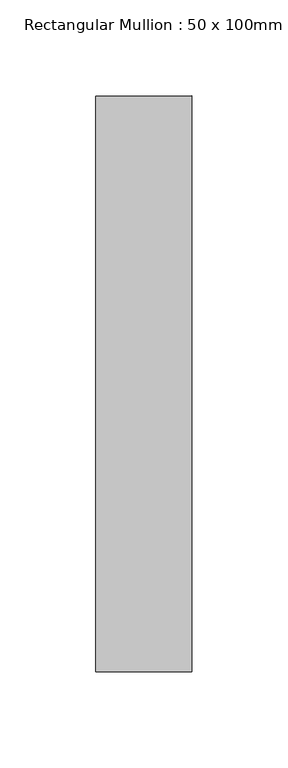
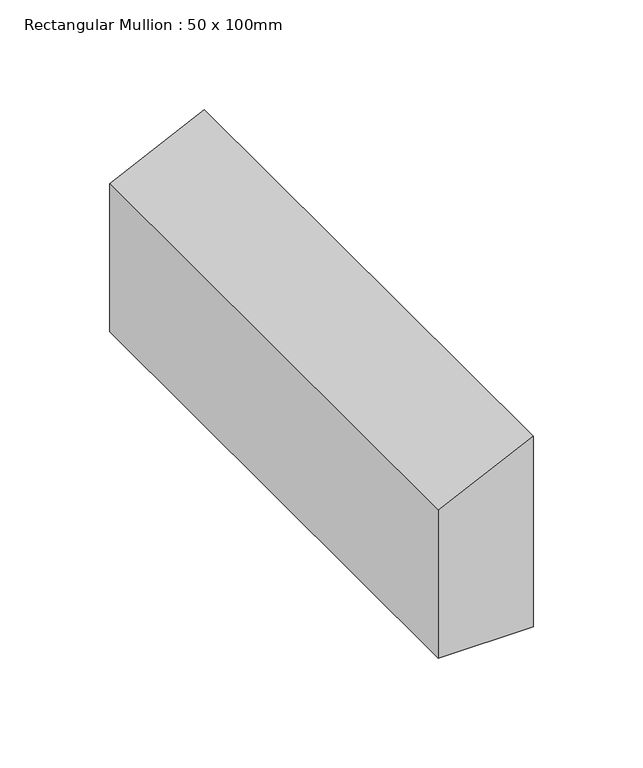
"""IFC4 building model written with IfcOpenShell, lengths in millimetres: member geometry, Rectangular Mullion : 50 x 100mm."""

from ifc_helpers import new_model, si_unit, frame, origin, place, context, project, spatial, polyline, outline, extrude, source, transform, mapped, element, save


def rectangular_mullion_50_x_100mm_b93bf2d0(model_context):
    return source(origin(), model_context, "Body", "SweptSolid", [
        extrude(outline(polyline([(0.0, 0.0), (-23.6761752, -50.0), (-106.3069709, -50.0), (-106.3069709, 0.0), (0.0, 0.0)])), frame((0.0, -125.0, 0.0), z_axis=(0.0, 1.0, 0.0), x_axis=(0.0, 0.0, 1.0)), (0.0, 0.0, 1.0), 300.0),
    ])


if __name__ == "__main__":
    model = new_model("IFC4")
    model_context = context("Model", 3, world=origin())
    ifc_project = project(units=[si_unit("LENGTHUNIT", "METRE", prefix="MILLI")], contexts=[model_context])
    site = spatial("IfcSite", under=ifc_project)
    building = spatial("IfcBuilding", under=site)
    placement = place(None, origin())
    rectangular_mullion_50_x_100mm_shape = rectangular_mullion_50_x_100mm_b93bf2d0(model_context)
    element("IfcMember", 1, ObjectType="Rectangular Mullion : 50 x 100mm", at=placement, inside=building, context=model_context, shape_type="MappedRepresentation", body=[
        mapped(rectangular_mullion_50_x_100mm_shape, transform((0.0, 0.0, 0.0), x_axis=(1.0, 0.0, 0.0), y_axis=(0.0, 1.0, 0.0), z_axis=(0.0, 0.0, 1.0))),
    ])
    save(model, "model.ifc")
